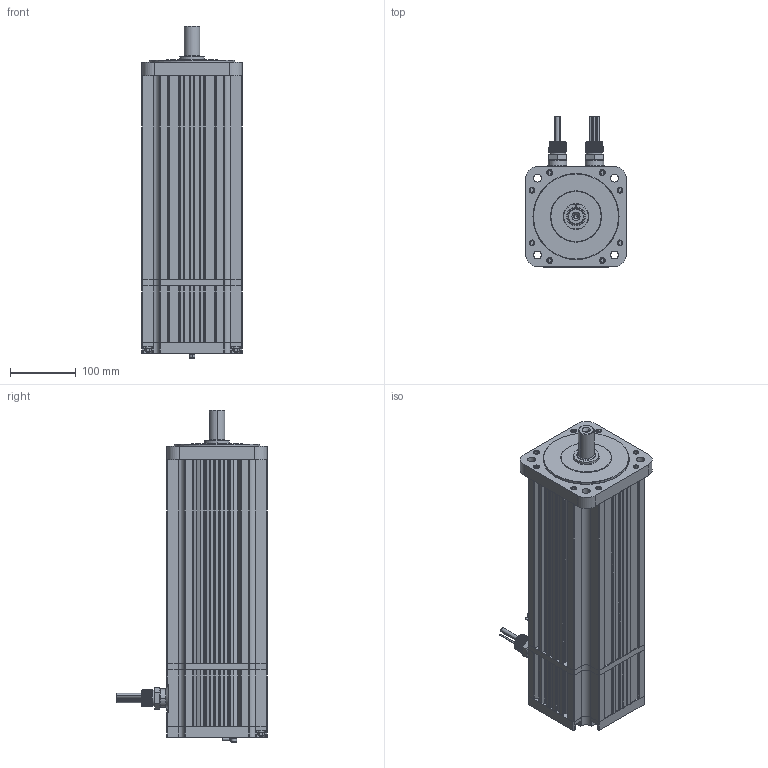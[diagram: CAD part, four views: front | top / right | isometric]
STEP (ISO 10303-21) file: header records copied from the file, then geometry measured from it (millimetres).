
FILE_DESCRIPTION (( 'STEP AP203' ), '1' );
FILE_NAME ('M463-KNSB-CT08.STEP', '2019-02-26T14:04:19', ( '' ), ( '' ), 'SwSTEP 2.0', 'SolidWorks 2016', '' );
FILE_SCHEMA (( 'CONFIG_CONTROL_DESIGN' ));
Length unit declared in the file: inch
Products named in the file (1): M463-KNSB-CT08
Bounding box: 152.4 x 228.22 x 503.4 mm (x, y, z)
Volume: 4130259.3 mm3; surface area: 814147.5 mm2
Topology: 52 solids, 52 shells, 2072 faces, 4977 edges, 3129 vertices
Faces by surface type: cylinder 868, plane 723, cone 314, torus 129, bspline 38
Entity records: 76394 total; most frequent: CARTESIAN_POINT 27181, DIRECTION 10798, ORIENTED_EDGE 9798, EDGE_CURVE 4899, AXIS2_PLACEMENT_3D 4195, VERTEX_POINT 3129, LINE 2408, VECTOR 2408
